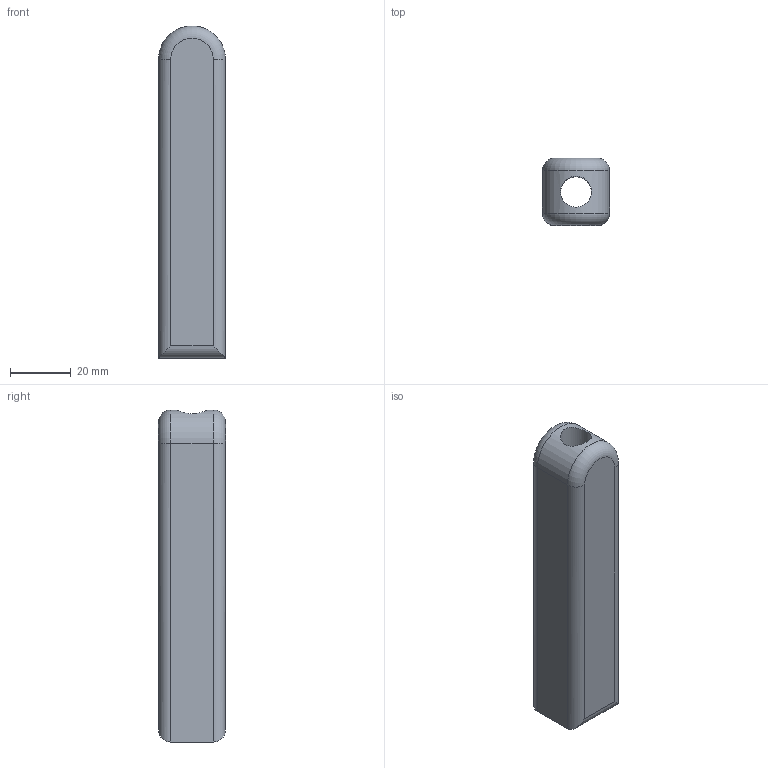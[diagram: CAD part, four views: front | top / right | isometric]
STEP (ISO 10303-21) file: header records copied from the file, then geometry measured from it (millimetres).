
FILE_DESCRIPTION(/* description */ (''),/* implementation_level */ '2;1');
FILE_NAME(/* name */ 'C:/Users/Owner/Desktop/K-CAD Songbird PM4 Centerfire/STEP/Barrels/Barrel Type 1/Barrel Type 1 .4 inch ID.step',/* time_stamp */ '2020-12-05T21:55:21-05:00',/* author */ (''),/* organization */ (''),/* preprocessor_version */ 'ST-DEVELOPER v18.1',/* originating_system */ 'Autodesk Translation Framework v9.3.0.1241',/* authorisation */ '');
FILE_SCHEMA (('AUTOMOTIVE_DESIGN { 1 0 10303 214 3 1 1 }'));
Length unit declared in the file: inch
Products named in the file (1): Barrel Type 1 .4 inch ID
Bounding box: 22 x 22 x 109 mm (x, y, z)
Volume: 41110.7 mm3; surface area: 12660.1 mm2
Topology: 1 solids, 1 shells, 15 faces, 31 edges, 18 vertices
Faces by surface type: cylinder 8, plane 5, torus 2
Full cylindrical faces by diameter (mm): 10.16 x1
Entity records: 471 total; most frequent: CARTESIAN_POINT 98, DIRECTION 75, ORIENTED_EDGE 62, EDGE_CURVE 31, AXIS2_PLACEMENT_3D 29, VERTEX_POINT 18, EDGE_LOOP 17, LINE 17
